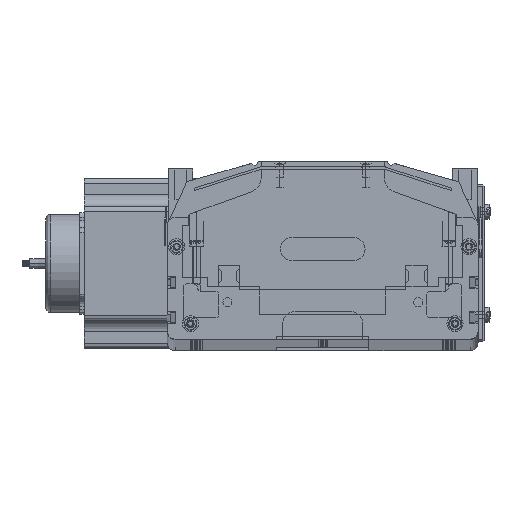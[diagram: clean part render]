
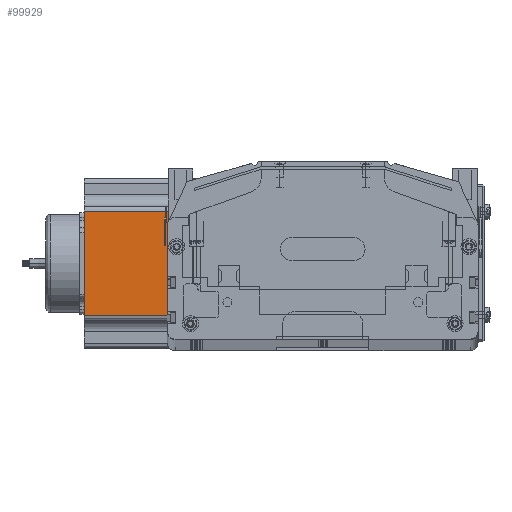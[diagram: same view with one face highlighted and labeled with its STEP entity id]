
A CAD part, top view. The second image highlights one B-rep face of the part: STEP entity #99929.
In plain terms, the highlighted planar face has unit normal (0, 0, 1) as drawn and (0, -1, 0) by its records, which use the part's own axes.
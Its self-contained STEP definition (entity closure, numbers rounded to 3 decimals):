
#82783 = LINE ( 'NONE', #82826, #82816 ) ;
#82815 = DIRECTION ( 'NONE',  ( 1., 0., 0. ) ) ;
#82816 = VECTOR ( 'NONE', #82815, 1000. ) ;
#82818 = CARTESIAN_POINT ( 'NONE',  ( 88.952, 0., 0. ) ) ;
#82826 = CARTESIAN_POINT ( 'NONE',  ( 0., 0., 0. ) ) ;
#82881 = CARTESIAN_POINT ( 'NONE',  ( 21.048, 0., 0. ) ) ;
#82957 = VECTOR ( 'NONE', #83069, 1000. ) ;
#82958 = CARTESIAN_POINT ( 'NONE',  ( 88.952, 0., 160.5 ) ) ;
#82960 = AXIS2_PLACEMENT_3D ( 'NONE', #83021, #83020, #83078 ) ;
#82961 = FACE_OUTER_BOUND ( 'NONE', #99858, .T. ) ;
#82962 = CARTESIAN_POINT ( 'NONE',  ( 88.952, 0., 160.5 ) ) ;
#83007 = LINE ( 'NONE', #82958, #82957 ) ;
#83019 = PLANE ( 'NONE',  #82960 ) ;
#83020 = DIRECTION ( 'NONE',  ( 0., 1., 0. ) ) ;
#83021 = CARTESIAN_POINT ( 'NONE',  ( 0., 0., 160.5 ) ) ;
#83069 = DIRECTION ( 'NONE',  ( 0., 0., 1. ) ) ;
#83078 = DIRECTION ( 'NONE',  ( 0., 0., 1. ) ) ;
#83241 = VECTOR ( 'NONE', #83242, 1000. ) ;
#83242 = DIRECTION ( 'NONE',  ( 0., 0., -1. ) ) ;
#83243 = CARTESIAN_POINT ( 'NONE',  ( 21.048, 0., 160.5 ) ) ;
#83244 = LINE ( 'NONE', #83243, #83241 ) ;
#83257 = CARTESIAN_POINT ( 'NONE',  ( 21.048, 0., 160.5 ) ) ;
#83378 = DIRECTION ( 'NONE',  ( 1., 0., 0. ) ) ;
#83379 = VECTOR ( 'NONE', #83378, 1000. ) ;
#83380 = CARTESIAN_POINT ( 'NONE',  ( 0., 0., 160.5 ) ) ;
#83381 = LINE ( 'NONE', #83380, #83379 ) ;
#99851 = EDGE_CURVE ( 'NONE', #99881, #99853, #82783, .T. ) ;
#99852 = ORIENTED_EDGE ( 'NONE', *, *, #100205, .T. ) ;
#99853 = VERTEX_POINT ( 'NONE', #82818 ) ;
#99858 = EDGE_LOOP ( 'NONE', ( #99866, #100203, #99914, #99852 ) ) ;
#99866 = ORIENTED_EDGE ( 'NONE', *, *, #99851, .T. ) ;
#99881 = VERTEX_POINT ( 'NONE', #82881 ) ;
#99901 = EDGE_CURVE ( 'NONE', #99853, #99928, #83007, .T. ) ;
#99914 = ORIENTED_EDGE ( 'NONE', *, *, #100204, .F. ) ;
#99928 = VERTEX_POINT ( 'NONE', #82962 ) ;
#99929 = ADVANCED_FACE ( 'NONE', ( #82961 ), #83019, .F. ) ;
#100088 = VERTEX_POINT ( 'NONE', #83257 ) ;
#100203 = ORIENTED_EDGE ( 'NONE', *, *, #99901, .T. ) ;
#100204 = EDGE_CURVE ( 'NONE', #100088, #99928, #83381, .T. ) ;
#100205 = EDGE_CURVE ( 'NONE', #100088, #99881, #83244, .T. ) ;
